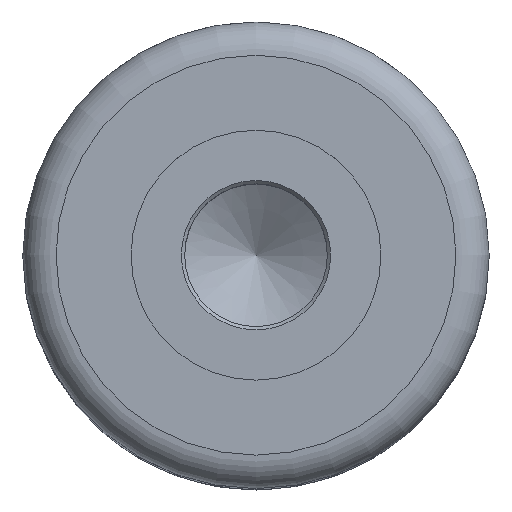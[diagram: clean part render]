
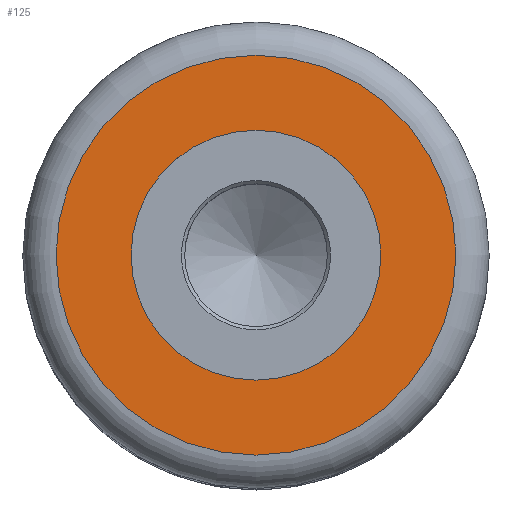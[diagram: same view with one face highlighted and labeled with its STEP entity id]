
A CAD part, top view. The second image highlights one B-rep face of the part: STEP entity #125.
In plain terms, the highlighted planar face has unit normal (0, 0, 1).
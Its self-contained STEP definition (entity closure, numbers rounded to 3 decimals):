
#125=ADVANCED_FACE('',(#219,#220),#221,.T.);
#219=FACE_BOUND('',#304,.T.);
#220=FACE_OUTER_BOUND('',#305,.T.);
#221=PLANE('',#306);
#304=EDGE_LOOP('',(#409));
#305=EDGE_LOOP('',(#410));
#306=AXIS2_PLACEMENT_3D('',#411,#412,#413);
#409=ORIENTED_EDGE('',*,*,#472,.F.);
#410=ORIENTED_EDGE('',*,*,#469,.T.);
#411=CARTESIAN_POINT('',(0.0,0.0,27.5));
#412=DIRECTION('',(0.0,0.0,1.0));
#413=DIRECTION('',(1.0,0.0,0.0));
#469=EDGE_CURVE('',#521,#521,#522,.T.);
#472=EDGE_CURVE('',#526,#526,#527,.T.);
#521=VERTEX_POINT('',#769);
#522=CIRCLE('',#770,12.0);
#526=VERTEX_POINT('',#774);
#527=CIRCLE('',#775,7.5);
#769=CARTESIAN_POINT('',(12.0,0.0,27.5));
#770=AXIS2_PLACEMENT_3D('',#824,#825,#826);
#774=CARTESIAN_POINT('',(7.5,0.0,27.5));
#775=AXIS2_PLACEMENT_3D('',#830,#831,#832);
#824=CARTESIAN_POINT('',(0.0,0.0,27.5));
#825=DIRECTION('',(0.0,0.0,1.0));
#826=DIRECTION('',(1.0,0.0,0.0));
#830=CARTESIAN_POINT('',(0.0,0.0,27.5));
#831=DIRECTION('',(0.0,0.0,1.0));
#832=DIRECTION('',(1.0,0.0,0.0));
